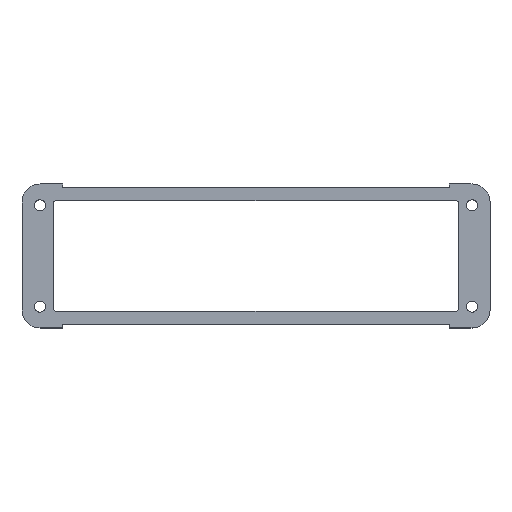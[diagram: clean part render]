
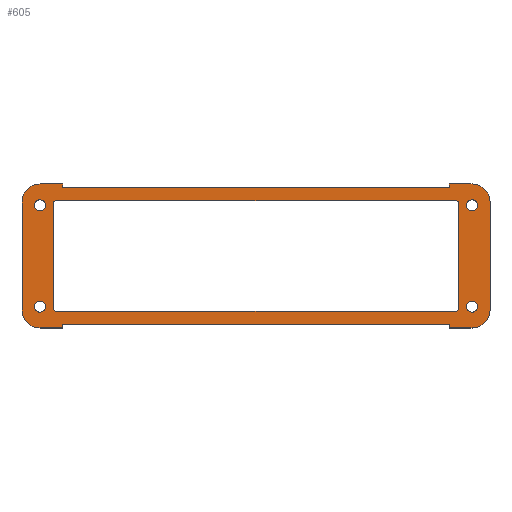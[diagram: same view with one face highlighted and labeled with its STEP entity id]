
A CAD part, top view. The second image highlights one B-rep face of the part: STEP entity #605.
In plain terms, the highlighted planar face has unit normal (0, 0, 1).
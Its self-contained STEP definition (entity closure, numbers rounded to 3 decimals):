
#15=FACE_BOUND('',#102,.T.);
#16=FACE_BOUND('',#103,.T.);
#17=FACE_BOUND('',#104,.T.);
#18=FACE_BOUND('',#105,.T.);
#19=FACE_BOUND('',#106,.T.);
#41=PLANE('',#682);
#71=FACE_OUTER_BOUND('',#101,.T.);
#101=EDGE_LOOP('',(#509,#510,#511,#512,#513,#514,#515,#516,#517,#518,#519,
#520,#521,#522,#523,#524));
#102=EDGE_LOOP('',(#525,#526,#527,#528,#529,#530,#531,#532));
#103=EDGE_LOOP('',(#533));
#104=EDGE_LOOP('',(#534));
#105=EDGE_LOOP('',(#535));
#106=EDGE_LOOP('',(#536));
#115=LINE('',#866,#175);
#119=LINE('',#878,#179);
#123=LINE('',#890,#183);
#127=LINE('',#901,#187);
#133=LINE('',#930,#193);
#138=LINE('',#944,#198);
#142=LINE('',#956,#202);
#145=LINE('',#962,#205);
#148=LINE('',#968,#208);
#151=LINE('',#974,#211);
#154=LINE('',#980,#214);
#158=LINE('',#992,#218);
#162=LINE('',#1004,#222);
#165=LINE('',#1010,#225);
#168=LINE('',#1016,#228);
#171=LINE('',#1021,#231);
#175=VECTOR('',#696,10.);
#179=VECTOR('',#708,10.);
#183=VECTOR('',#720,10.);
#187=VECTOR('',#732,10.);
#193=VECTOR('',#764,10.);
#198=VECTOR('',#777,10.);
#202=VECTOR('',#789,10.);
#205=VECTOR('',#794,10.);
#208=VECTOR('',#799,10.);
#211=VECTOR('',#804,10.);
#214=VECTOR('',#809,10.);
#218=VECTOR('',#821,10.);
#222=VECTOR('',#833,10.);
#225=VECTOR('',#838,10.);
#228=VECTOR('',#843,10.);
#231=VECTOR('',#848,10.);
#233=CIRCLE('',#631,0.5);
#235=CIRCLE('',#635,0.5);
#237=CIRCLE('',#639,0.5);
#239=CIRCLE('',#643,0.5);
#242=CIRCLE('',#648,1.25);
#244=CIRCLE('',#651,1.25);
#246=CIRCLE('',#654,1.25);
#248=CIRCLE('',#657,1.25);
#249=CIRCLE('',#660,4.);
#251=CIRCLE('',#664,4.);
#253=CIRCLE('',#672,4.);
#255=CIRCLE('',#676,4.);
#257=VERTEX_POINT('',#856);
#258=VERTEX_POINT('',#857);
#261=VERTEX_POINT('',#865);
#263=VERTEX_POINT('',#871);
#265=VERTEX_POINT('',#877);
#267=VERTEX_POINT('',#883);
#269=VERTEX_POINT('',#889);
#271=VERTEX_POINT('',#895);
#274=VERTEX_POINT('',#906);
#276=VERTEX_POINT('',#912);
#278=VERTEX_POINT('',#918);
#280=VERTEX_POINT('',#924);
#281=VERTEX_POINT('',#928);
#282=VERTEX_POINT('',#929);
#285=VERTEX_POINT('',#937);
#287=VERTEX_POINT('',#943);
#289=VERTEX_POINT('',#949);
#291=VERTEX_POINT('',#955);
#293=VERTEX_POINT('',#961);
#295=VERTEX_POINT('',#967);
#297=VERTEX_POINT('',#973);
#299=VERTEX_POINT('',#979);
#301=VERTEX_POINT('',#985);
#303=VERTEX_POINT('',#991);
#305=VERTEX_POINT('',#997);
#307=VERTEX_POINT('',#1003);
#309=VERTEX_POINT('',#1009);
#311=VERTEX_POINT('',#1015);
#313=EDGE_CURVE('',#257,#258,#233,.T.);
#317=EDGE_CURVE('',#258,#261,#115,.T.);
#320=EDGE_CURVE('',#261,#263,#235,.T.);
#323=EDGE_CURVE('',#263,#265,#119,.T.);
#326=EDGE_CURVE('',#265,#267,#237,.T.);
#329=EDGE_CURVE('',#267,#269,#123,.T.);
#332=EDGE_CURVE('',#269,#271,#239,.T.);
#335=EDGE_CURVE('',#271,#257,#127,.T.);
#339=EDGE_CURVE('',#274,#274,#242,.T.);
#342=EDGE_CURVE('',#276,#276,#244,.T.);
#345=EDGE_CURVE('',#278,#278,#246,.T.);
#348=EDGE_CURVE('',#280,#280,#248,.T.);
#349=EDGE_CURVE('',#281,#282,#133,.T.);
#353=EDGE_CURVE('',#282,#285,#249,.T.);
#356=EDGE_CURVE('',#285,#287,#138,.T.);
#359=EDGE_CURVE('',#287,#289,#251,.T.);
#362=EDGE_CURVE('',#289,#291,#142,.T.);
#365=EDGE_CURVE('',#291,#293,#145,.T.);
#368=EDGE_CURVE('',#293,#295,#148,.T.);
#371=EDGE_CURVE('',#295,#297,#151,.T.);
#374=EDGE_CURVE('',#297,#299,#154,.T.);
#377=EDGE_CURVE('',#299,#301,#253,.T.);
#380=EDGE_CURVE('',#301,#303,#158,.T.);
#383=EDGE_CURVE('',#303,#305,#255,.T.);
#386=EDGE_CURVE('',#305,#307,#162,.T.);
#389=EDGE_CURVE('',#307,#309,#165,.T.);
#392=EDGE_CURVE('',#309,#311,#168,.T.);
#395=EDGE_CURVE('',#311,#281,#171,.T.);
#509=ORIENTED_EDGE('',*,*,#349,.F.);
#510=ORIENTED_EDGE('',*,*,#395,.F.);
#511=ORIENTED_EDGE('',*,*,#392,.F.);
#512=ORIENTED_EDGE('',*,*,#389,.F.);
#513=ORIENTED_EDGE('',*,*,#386,.F.);
#514=ORIENTED_EDGE('',*,*,#383,.F.);
#515=ORIENTED_EDGE('',*,*,#380,.F.);
#516=ORIENTED_EDGE('',*,*,#377,.F.);
#517=ORIENTED_EDGE('',*,*,#374,.F.);
#518=ORIENTED_EDGE('',*,*,#371,.F.);
#519=ORIENTED_EDGE('',*,*,#368,.F.);
#520=ORIENTED_EDGE('',*,*,#365,.F.);
#521=ORIENTED_EDGE('',*,*,#362,.F.);
#522=ORIENTED_EDGE('',*,*,#359,.F.);
#523=ORIENTED_EDGE('',*,*,#356,.F.);
#524=ORIENTED_EDGE('',*,*,#353,.F.);
#525=ORIENTED_EDGE('',*,*,#313,.T.);
#526=ORIENTED_EDGE('',*,*,#317,.T.);
#527=ORIENTED_EDGE('',*,*,#320,.T.);
#528=ORIENTED_EDGE('',*,*,#323,.T.);
#529=ORIENTED_EDGE('',*,*,#326,.T.);
#530=ORIENTED_EDGE('',*,*,#329,.T.);
#531=ORIENTED_EDGE('',*,*,#332,.T.);
#532=ORIENTED_EDGE('',*,*,#335,.T.);
#533=ORIENTED_EDGE('',*,*,#339,.T.);
#534=ORIENTED_EDGE('',*,*,#342,.T.);
#535=ORIENTED_EDGE('',*,*,#345,.T.);
#536=ORIENTED_EDGE('',*,*,#348,.T.);
#605=ADVANCED_FACE('',(#71,#15,#16,#17,#18,#19),#41,.T.);
#631=AXIS2_PLACEMENT_3D('',#858,#688,#689);
#635=AXIS2_PLACEMENT_3D('',#872,#701,#702);
#639=AXIS2_PLACEMENT_3D('',#884,#713,#714);
#643=AXIS2_PLACEMENT_3D('',#896,#725,#726);
#648=AXIS2_PLACEMENT_3D('',#908,#739,#740);
#651=AXIS2_PLACEMENT_3D('',#914,#746,#747);
#654=AXIS2_PLACEMENT_3D('',#920,#753,#754);
#657=AXIS2_PLACEMENT_3D('',#926,#760,#761);
#660=AXIS2_PLACEMENT_3D('',#938,#770,#771);
#664=AXIS2_PLACEMENT_3D('',#950,#782,#783);
#672=AXIS2_PLACEMENT_3D('',#986,#814,#815);
#676=AXIS2_PLACEMENT_3D('',#998,#826,#827);
#682=AXIS2_PLACEMENT_3D('',#1023,#850,#851);
#688=DIRECTION('center_axis',(0.,0.,-1.));
#689=DIRECTION('ref_axis',(0.,-1.,0.));
#696=DIRECTION('',(1.,0.,0.));
#701=DIRECTION('center_axis',(0.,0.,-1.));
#702=DIRECTION('ref_axis',(-1.,0.,0.));
#708=DIRECTION('',(0.,-1.,0.));
#713=DIRECTION('center_axis',(0.,0.,-1.));
#714=DIRECTION('ref_axis',(0.,1.,0.));
#720=DIRECTION('',(-1.,0.,0.));
#725=DIRECTION('center_axis',(0.,0.,-1.));
#726=DIRECTION('ref_axis',(1.,0.,0.));
#732=DIRECTION('',(0.,1.,0.));
#739=DIRECTION('center_axis',(0.,0.,-1.));
#740=DIRECTION('ref_axis',(-1.,0.,0.));
#746=DIRECTION('center_axis',(0.,0.,-1.));
#747=DIRECTION('ref_axis',(-1.,0.,0.));
#753=DIRECTION('center_axis',(0.,0.,-1.));
#754=DIRECTION('ref_axis',(-1.,0.,0.));
#760=DIRECTION('center_axis',(0.,0.,-1.));
#761=DIRECTION('ref_axis',(-1.,0.,0.));
#764=DIRECTION('',(-1.,0.,0.));
#770=DIRECTION('center_axis',(0.,0.,-1.));
#771=DIRECTION('ref_axis',(1.,0.,0.));
#777=DIRECTION('',(0.,1.,0.));
#782=DIRECTION('center_axis',(0.,0.,-1.));
#783=DIRECTION('ref_axis',(0.,-1.,0.));
#789=DIRECTION('',(1.,0.,0.));
#794=DIRECTION('',(0.,-1.,0.));
#799=DIRECTION('',(1.,0.,0.));
#804=DIRECTION('',(0.,1.,0.));
#809=DIRECTION('',(1.,0.,0.));
#814=DIRECTION('center_axis',(0.,0.,-1.));
#815=DIRECTION('ref_axis',(-1.,0.,0.));
#821=DIRECTION('',(0.,-1.,0.));
#826=DIRECTION('center_axis',(0.,0.,-1.));
#827=DIRECTION('ref_axis',(0.,1.,0.));
#833=DIRECTION('',(-1.,0.,0.));
#838=DIRECTION('',(0.,1.,0.));
#843=DIRECTION('',(-1.,0.,0.));
#848=DIRECTION('',(0.,-1.,0.));
#850=DIRECTION('center_axis',(0.,0.,1.));
#851=DIRECTION('ref_axis',(1.,0.,0.));
#856=CARTESIAN_POINT('',(-45.,11.75,1.575));
#857=CARTESIAN_POINT('',(-44.5,12.25,1.575));
#858=CARTESIAN_POINT('Origin',(-44.5,11.75,1.575));
#865=CARTESIAN_POINT('',(44.5,12.25,1.575));
#866=CARTESIAN_POINT('',(-22.25,12.25,1.575));
#871=CARTESIAN_POINT('',(45.,11.75,1.575));
#872=CARTESIAN_POINT('Origin',(44.5,11.75,1.575));
#877=CARTESIAN_POINT('',(45.,-11.75,1.575));
#878=CARTESIAN_POINT('',(45.,5.875,1.575));
#883=CARTESIAN_POINT('',(44.5,-12.25,1.575));
#884=CARTESIAN_POINT('Origin',(44.5,-11.75,1.575));
#889=CARTESIAN_POINT('',(-44.5,-12.25,1.575));
#890=CARTESIAN_POINT('',(22.25,-12.25,1.575));
#895=CARTESIAN_POINT('',(-45.,-11.75,1.575));
#896=CARTESIAN_POINT('Origin',(-44.5,-11.75,1.575));
#901=CARTESIAN_POINT('',(-45.,-5.875,1.575));
#906=CARTESIAN_POINT('',(49.26,11.265,1.575));
#908=CARTESIAN_POINT('Origin',(48.01,11.265,1.575));
#912=CARTESIAN_POINT('',(49.26,-11.265,1.575));
#914=CARTESIAN_POINT('Origin',(48.01,-11.265,1.575));
#918=CARTESIAN_POINT('',(-46.76,-11.265,1.575));
#920=CARTESIAN_POINT('Origin',(-48.01,-11.265,1.575));
#924=CARTESIAN_POINT('',(-46.76,11.265,1.575));
#926=CARTESIAN_POINT('Origin',(-48.01,11.265,1.575));
#928=CARTESIAN_POINT('',(-43.,-16.,1.575));
#929=CARTESIAN_POINT('',(-48.,-16.,1.575));
#930=CARTESIAN_POINT('',(-43.,-16.,1.575));
#937=CARTESIAN_POINT('',(-52.,-12.,1.575));
#938=CARTESIAN_POINT('Origin',(-48.,-12.,1.575));
#943=CARTESIAN_POINT('',(-52.,12.,1.575));
#944=CARTESIAN_POINT('',(-52.,-12.,1.575));
#949=CARTESIAN_POINT('',(-48.,16.,1.575));
#950=CARTESIAN_POINT('Origin',(-48.,12.,1.575));
#955=CARTESIAN_POINT('',(-43.,16.,1.575));
#956=CARTESIAN_POINT('',(-48.,16.,1.575));
#961=CARTESIAN_POINT('',(-43.,15.25,1.575));
#962=CARTESIAN_POINT('',(-43.,16.,1.575));
#967=CARTESIAN_POINT('',(43.,15.25,1.575));
#968=CARTESIAN_POINT('',(-43.,15.25,1.575));
#973=CARTESIAN_POINT('',(43.,16.,1.575));
#974=CARTESIAN_POINT('',(43.,15.25,1.575));
#979=CARTESIAN_POINT('',(48.,16.,1.575));
#980=CARTESIAN_POINT('',(43.,16.,1.575));
#985=CARTESIAN_POINT('',(52.,12.,1.575));
#986=CARTESIAN_POINT('Origin',(48.,12.,1.575));
#991=CARTESIAN_POINT('',(52.,-12.,1.575));
#992=CARTESIAN_POINT('',(52.,12.,1.575));
#997=CARTESIAN_POINT('',(48.,-16.,1.575));
#998=CARTESIAN_POINT('Origin',(48.,-12.,1.575));
#1003=CARTESIAN_POINT('',(43.,-16.,1.575));
#1004=CARTESIAN_POINT('',(48.,-16.,1.575));
#1009=CARTESIAN_POINT('',(43.,-15.25,1.575));
#1010=CARTESIAN_POINT('',(43.,-16.,1.575));
#1015=CARTESIAN_POINT('',(-43.,-15.25,1.575));
#1016=CARTESIAN_POINT('',(43.,-15.25,1.575));
#1021=CARTESIAN_POINT('',(-43.,-15.25,1.575));
#1023=CARTESIAN_POINT('Origin',(0.,0.,
1.575));
